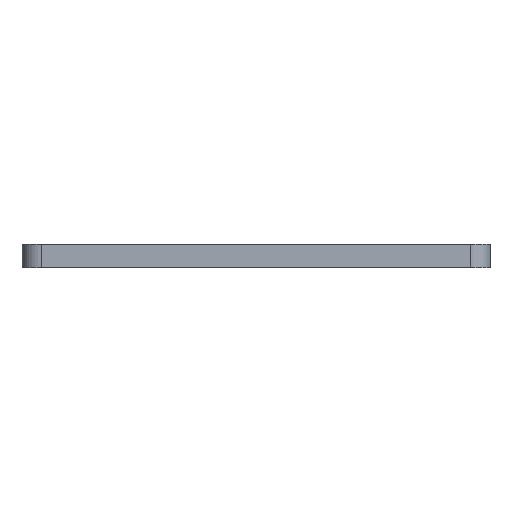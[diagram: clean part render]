
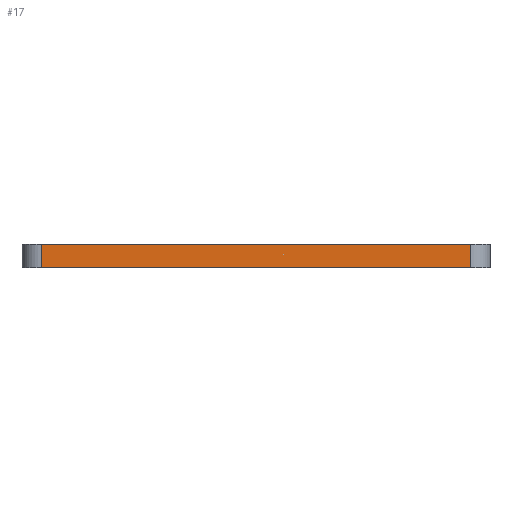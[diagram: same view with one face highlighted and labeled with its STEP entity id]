
A CAD part, front view. The second image highlights one B-rep face of the part: STEP entity #17.
In plain terms, the highlighted planar face has unit normal (0, -1, 0).
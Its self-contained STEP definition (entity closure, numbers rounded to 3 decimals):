
#17 = ADVANCED_FACE('',(#18),#32,.F.);
#18 = FACE_BOUND('',#19,.F.);
#19 = EDGE_LOOP('',(#20,#55,#83,#111));
#20 = ORIENTED_EDGE('',*,*,#21,.F.);
#21 = EDGE_CURVE('',#22,#24,#26,.T.);
#22 = VERTEX_POINT('',#23);
#23 = CARTESIAN_POINT('',(-55.,-35.,0.));
#24 = VERTEX_POINT('',#25);
#25 = CARTESIAN_POINT('',(55.,-35.,0.));
#26 = SURFACE_CURVE('',#27,(#31,#43),.PCURVE_S1.);
#27 = LINE('',#28,#29);
#28 = CARTESIAN_POINT('',(-60.,-35.,0.));
#29 = VECTOR('',#30,1.);
#30 = DIRECTION('',(1.,0.,0.));
#31 = PCURVE('',#32,#37);
#32 = PLANE('',#33);
#33 = AXIS2_PLACEMENT_3D('',#34,#35,#36);
#34 = CARTESIAN_POINT('',(-60.,-35.,0.));
#35 = DIRECTION('',(0.,1.,0.));
#36 = DIRECTION('',(1.,0.,0.));
#37 = DEFINITIONAL_REPRESENTATION('',(#38),#42);
#38 = LINE('',#39,#40);
#39 = CARTESIAN_POINT('',(0.,0.));
#40 = VECTOR('',#41,1.);
#41 = DIRECTION('',(1.,0.));
#42 = ( GEOMETRIC_REPRESENTATION_CONTEXT(2) 
PARAMETRIC_REPRESENTATION_CONTEXT() REPRESENTATION_CONTEXT('2D SPACE',''
  ) );
#43 = PCURVE('',#44,#49);
#44 = PLANE('',#45);
#45 = AXIS2_PLACEMENT_3D('',#46,#47,#48);
#46 = CARTESIAN_POINT('',(0.,72.5,0.));
#47 = DIRECTION('',(0.,0.,1.));
#48 = DIRECTION('',(1.,0.,-0.));
#49 = DEFINITIONAL_REPRESENTATION('',(#50),#54);
#50 = LINE('',#51,#52);
#51 = CARTESIAN_POINT('',(-60.,-107.5));
#52 = VECTOR('',#53,1.);
#53 = DIRECTION('',(1.,0.));
#54 = ( GEOMETRIC_REPRESENTATION_CONTEXT(2) 
PARAMETRIC_REPRESENTATION_CONTEXT() REPRESENTATION_CONTEXT('2D SPACE',''
  ) );
#55 = ORIENTED_EDGE('',*,*,#56,.T.);
#56 = EDGE_CURVE('',#22,#57,#59,.T.);
#57 = VERTEX_POINT('',#58);
#58 = CARTESIAN_POINT('',(-55.,-35.,6.));
#59 = SURFACE_CURVE('',#60,(#64,#71),.PCURVE_S1.);
#60 = LINE('',#61,#62);
#61 = CARTESIAN_POINT('',(-55.,-35.,0.));
#62 = VECTOR('',#63,1.);
#63 = DIRECTION('',(0.,0.,1.));
#64 = PCURVE('',#32,#65);
#65 = DEFINITIONAL_REPRESENTATION('',(#66),#70);
#66 = LINE('',#67,#68);
#67 = CARTESIAN_POINT('',(5.,0.));
#68 = VECTOR('',#69,1.);
#69 = DIRECTION('',(0.,-1.));
#70 = ( GEOMETRIC_REPRESENTATION_CONTEXT(2) 
PARAMETRIC_REPRESENTATION_CONTEXT() REPRESENTATION_CONTEXT('2D SPACE',''
  ) );
#71 = PCURVE('',#72,#77);
#72 = CYLINDRICAL_SURFACE('',#73,5.);
#73 = AXIS2_PLACEMENT_3D('',#74,#75,#76);
#74 = CARTESIAN_POINT('',(-55.,-30.,0.));
#75 = DIRECTION('',(0.,0.,1.));
#76 = DIRECTION('',(0.,-1.,0.));
#77 = DEFINITIONAL_REPRESENTATION('',(#78),#82);
#78 = LINE('',#79,#80);
#79 = CARTESIAN_POINT('',(-0.,0.));
#80 = VECTOR('',#81,1.);
#81 = DIRECTION('',(-0.,1.));
#82 = ( GEOMETRIC_REPRESENTATION_CONTEXT(2) 
PARAMETRIC_REPRESENTATION_CONTEXT() REPRESENTATION_CONTEXT('2D SPACE',''
  ) );
#83 = ORIENTED_EDGE('',*,*,#84,.T.);
#84 = EDGE_CURVE('',#57,#85,#87,.T.);
#85 = VERTEX_POINT('',#86);
#86 = CARTESIAN_POINT('',(55.,-35.,6.));
#87 = SURFACE_CURVE('',#88,(#92,#99),.PCURVE_S1.);
#88 = LINE('',#89,#90);
#89 = CARTESIAN_POINT('',(-60.,-35.,6.));
#90 = VECTOR('',#91,1.);
#91 = DIRECTION('',(1.,0.,0.));
#92 = PCURVE('',#32,#93);
#93 = DEFINITIONAL_REPRESENTATION('',(#94),#98);
#94 = LINE('',#95,#96);
#95 = CARTESIAN_POINT('',(0.,-6.));
#96 = VECTOR('',#97,1.);
#97 = DIRECTION('',(1.,0.));
#98 = ( GEOMETRIC_REPRESENTATION_CONTEXT(2) 
PARAMETRIC_REPRESENTATION_CONTEXT() REPRESENTATION_CONTEXT('2D SPACE',''
  ) );
#99 = PCURVE('',#100,#105);
#100 = PLANE('',#101);
#101 = AXIS2_PLACEMENT_3D('',#102,#103,#104);
#102 = CARTESIAN_POINT('',(0.,72.5,6.));
#103 = DIRECTION('',(0.,0.,1.));
#104 = DIRECTION('',(1.,0.,-0.));
#105 = DEFINITIONAL_REPRESENTATION('',(#106),#110);
#106 = LINE('',#107,#108);
#107 = CARTESIAN_POINT('',(-60.,-107.5));
#108 = VECTOR('',#109,1.);
#109 = DIRECTION('',(1.,0.));
#110 = ( GEOMETRIC_REPRESENTATION_CONTEXT(2) 
PARAMETRIC_REPRESENTATION_CONTEXT() REPRESENTATION_CONTEXT('2D SPACE',''
  ) );
#111 = ORIENTED_EDGE('',*,*,#112,.F.);
#112 = EDGE_CURVE('',#24,#85,#113,.T.);
#113 = SURFACE_CURVE('',#114,(#118,#125),.PCURVE_S1.);
#114 = LINE('',#115,#116);
#115 = CARTESIAN_POINT('',(55.,-35.,0.));
#116 = VECTOR('',#117,1.);
#117 = DIRECTION('',(0.,0.,1.));
#118 = PCURVE('',#32,#119);
#119 = DEFINITIONAL_REPRESENTATION('',(#120),#124);
#120 = LINE('',#121,#122);
#121 = CARTESIAN_POINT('',(115.,0.));
#122 = VECTOR('',#123,1.);
#123 = DIRECTION('',(0.,-1.));
#124 = ( GEOMETRIC_REPRESENTATION_CONTEXT(2) 
PARAMETRIC_REPRESENTATION_CONTEXT() REPRESENTATION_CONTEXT('2D SPACE',''
  ) );
#125 = PCURVE('',#126,#131);
#126 = CYLINDRICAL_SURFACE('',#127,5.);
#127 = AXIS2_PLACEMENT_3D('',#128,#129,#130);
#128 = CARTESIAN_POINT('',(55.,-30.,0.));
#129 = DIRECTION('',(0.,0.,1.));
#130 = DIRECTION('',(0.,-1.,0.));
#131 = DEFINITIONAL_REPRESENTATION('',(#132),#136);
#132 = LINE('',#133,#134);
#133 = CARTESIAN_POINT('',(0.,0.));
#134 = VECTOR('',#135,1.);
#135 = DIRECTION('',(0.,1.));
#136 = ( GEOMETRIC_REPRESENTATION_CONTEXT(2) 
PARAMETRIC_REPRESENTATION_CONTEXT() REPRESENTATION_CONTEXT('2D SPACE',''
  ) );
